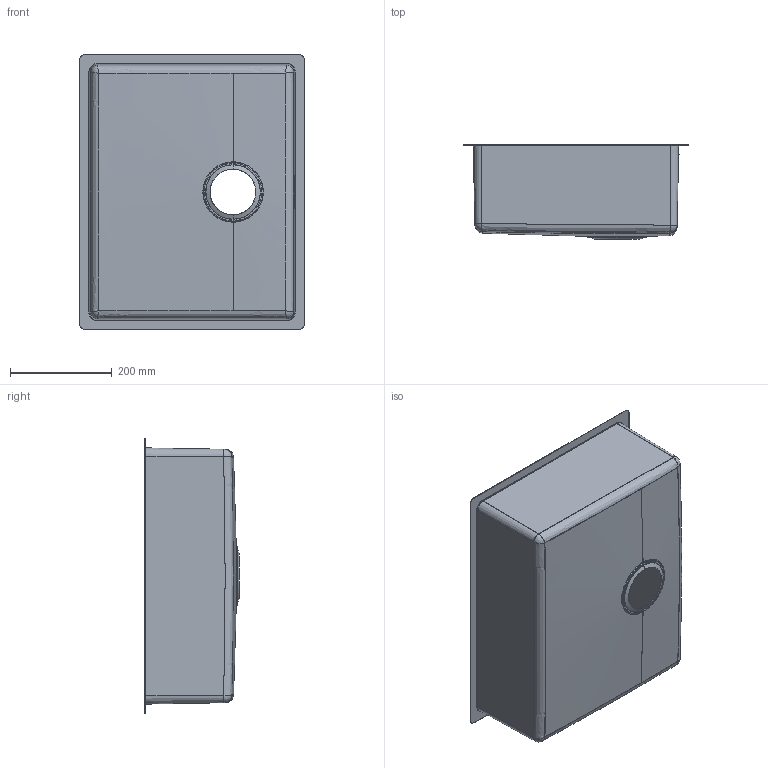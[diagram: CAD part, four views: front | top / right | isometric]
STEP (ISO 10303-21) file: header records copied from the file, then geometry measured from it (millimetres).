
FILE_DESCRIPTION (( 'STEP AP214' ), '1' );
FILE_NAME ('Morath Becken MR15-50-185 (SER 50) mit Rand.STEP', '2023-03-29T07:45:34', ( '' ), ( '' ), 'SwSTEP 2.0', 'SolidWorks 2022', '' );
FILE_SCHEMA (( 'AUTOMOTIVE_DESIGN' ));
Length unit declared in the file: millimetre
Products named in the file (1): Morath Becken MR15-50-185 (SER 50) mit Rand
Bounding box: 440 x 185 x 540 mm (x, y, z)
Volume: 506252.7 mm3; surface area: 1040225.5 mm2
Topology: 1 solids, 1 shells, 128 faces, 304 edges, 174 vertices
Faces by surface type: bspline 52, cylinder 36, plane 24, cone 16
Entity records: 14513 total; most frequent: CARTESIAN_POINT 11874, ORIENTED_EDGE 592, DIRECTION 482, EDGE_CURVE 296, AXIS2_PLACEMENT_3D 191, VERTEX_POINT 174, EDGE_LOOP 136, FACE_OUTER_BOUND 128
